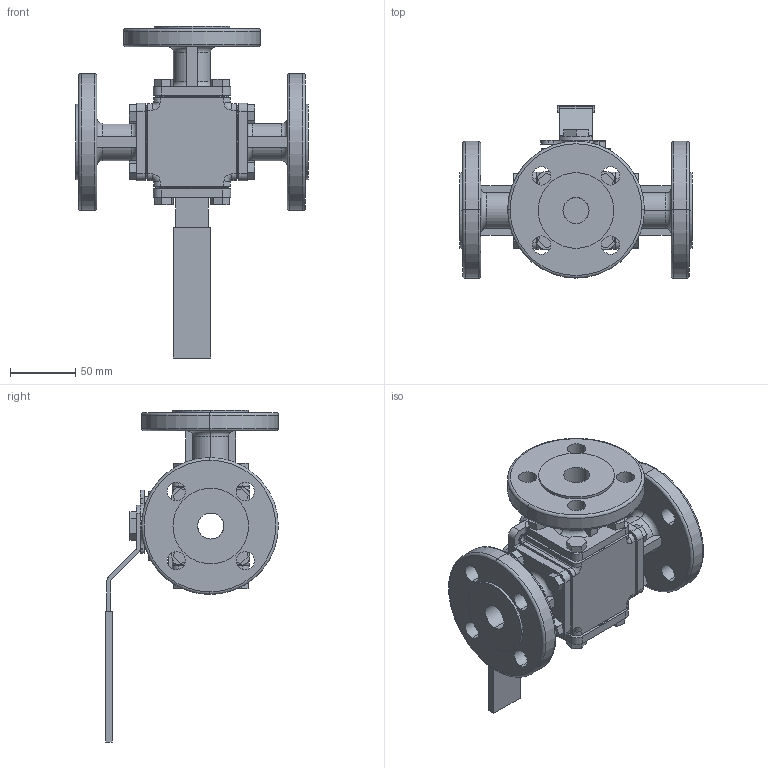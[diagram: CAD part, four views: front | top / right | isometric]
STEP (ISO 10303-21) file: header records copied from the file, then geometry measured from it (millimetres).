
FILE_DESCRIPTION (( 'STEP AP214' ), '1' );
FILE_NAME ('S316D DN20 HB.step', '2011-04-20T13:24:08', ( '' ), ( '' ), 'SwSTEP 2.0', 'SolidWorks 2011', '' );
FILE_SCHEMA (( 'AUTOMOTIVE_DESIGN' ));
Length unit declared in the file: millimetre
Products named in the file (7): S316D Flange end DN20; S316D Blindflens DN20; Hex Nut Style 1 GradeAB_DIN_Hexagon Nut ISO 4032 - M6 - D - N; Socket Head Cap Screw_DIN_DIN 912 M6 x 16 --- 16N; S316D Hendel DN20; S316D KK DN20 PN16; S316D DN20 HB
Assembly tree (8 placements, depth 2):
  S316D DN20 HB
    S316D KK DN20 PN16
    S316D Flange end DN20  x3
    S316D Blindflens DN20
    Socket Head Cap Screw_DIN_DIN 912 M6 x 16 --- 16N
    S316D Hendel DN20
    Hex Nut Style 1 GradeAB_DIN_Hexagon Nut ISO 4032 - M6 - D - N
Bounding box: 178 x 132.48 x 254.63 mm (x, y, z)
Volume: 824230.6 mm3; surface area: 186096 mm2
Topology: 8 solids, 9 shells, 613 faces, 1541 edges, 984 vertices
Faces by surface type: plane 350, cylinder 185, torus 42, cone 36
Entity records: 14052 total; most frequent: CARTESIAN_POINT 2581, DIRECTION 2391, ORIENTED_EDGE 2258, EDGE_CURVE 1129, AXIS2_PLACEMENT_3D 842, VERTEX_POINT 716, VECTOR 707, LINE 707
